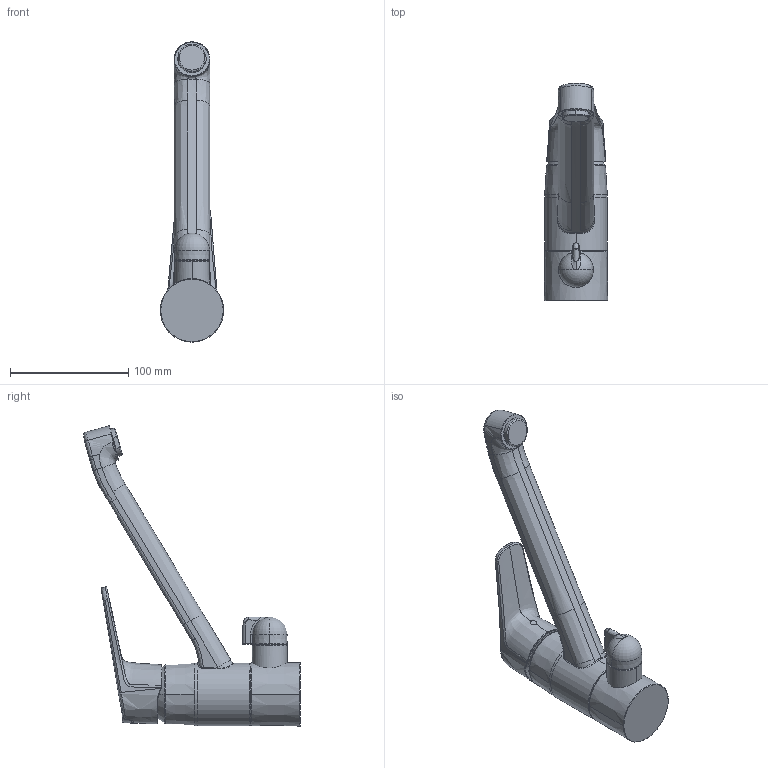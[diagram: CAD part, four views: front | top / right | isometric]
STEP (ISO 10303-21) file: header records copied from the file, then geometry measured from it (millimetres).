
FILE_DESCRIPTION (( 'STEP AP203' ), '1' );
FILE_NAME ('1825FG(2018).STEP', '2019-06-03T05:24:12', ( '' ), ( '' ), 'SwSTEP 2.0', 'SolidWorks 2016', '' );
FILE_SCHEMA (( 'CONFIG_CONTROL_DESIGN' ));
Length unit declared in the file: millimetre
Products named in the file (1): 1825FG(2018)
Bounding box: 53.72 x 183.52 x 253.97 mm (x, y, z)
Volume: 489479.9 mm3; surface area: 58379.6 mm2
Topology: 1 solids, 1 shells, 212 faces, 541 edges, 333 vertices
Faces by surface type: bspline 139, cylinder 29, torus 17, plane 15, cone 11, sphere 1
Entity records: 31592 total; most frequent: CARTESIAN_POINT 27651, ORIENTED_EDGE 1072, EDGE_CURVE 536, DIRECTION 421, B_SPLINE_CURVE_WITH_KNOTS 354, VERTEX_POINT 333, EDGE_LOOP 219, FACE_OUTER_BOUND 212
